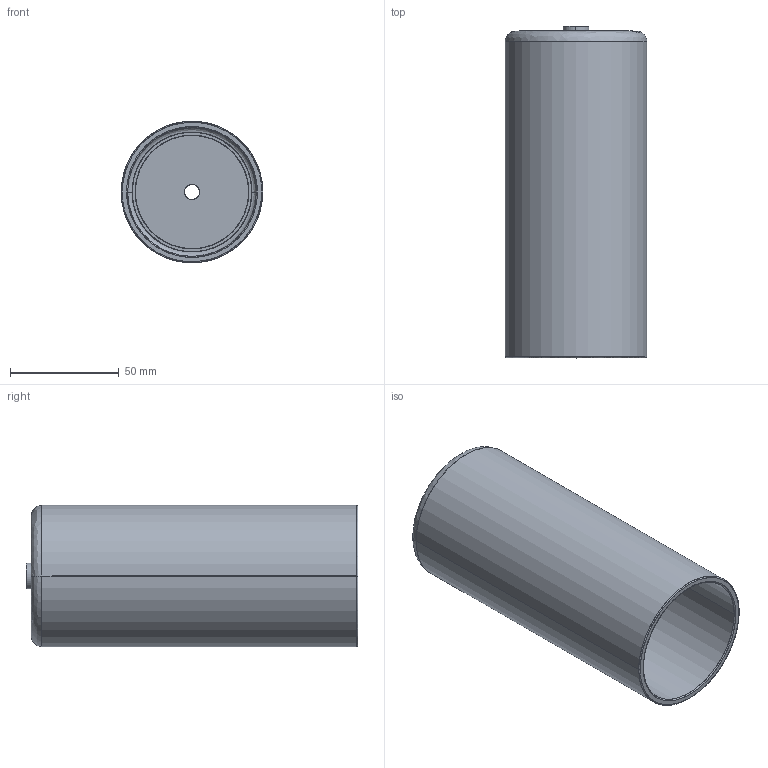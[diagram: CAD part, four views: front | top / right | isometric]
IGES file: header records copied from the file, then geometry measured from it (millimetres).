
Start section: SolidWorks IGES file using analytic representation for surfaces
Global section: file name: F:\GABRYSIA\MODELE 3D\_CAMELEON\KLOSZE I OPRAWY WWW\CYLINDER_S_8544_8545_8546_WWW\CYLINDER_S_8544_8545_8546.IGS; native system: SolidWorks 2017; preprocessor: SolidWorks 2017; author: Togambi; date: 200518.113028; units: millimetre
Bounding box: 65 x 152.3 x 65 mm (x, y, z)
Surface area: 102223.3 mm2 (no closed solid volume)
Topology: 0 solids, 0 shells, 138 faces, 1866 edges, 1866 vertices
Faces by surface type: bspline 95, revolution 43
